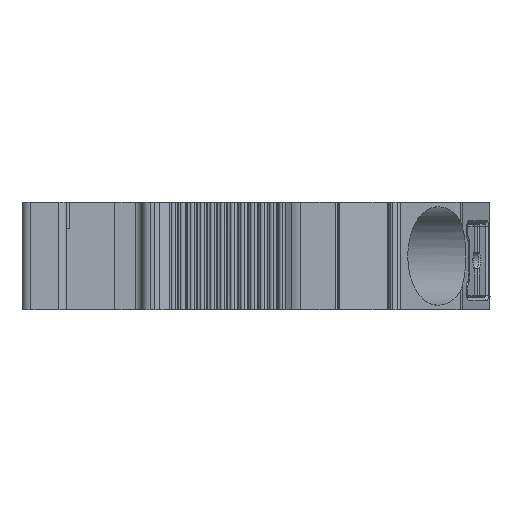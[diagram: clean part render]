
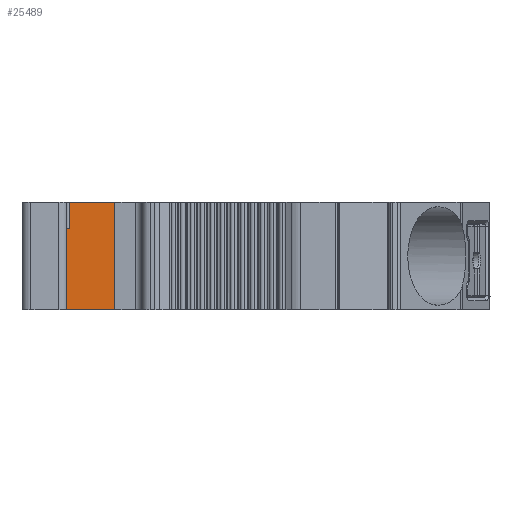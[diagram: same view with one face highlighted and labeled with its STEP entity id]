
A CAD part, left-side view. The second image highlights one B-rep face of the part: STEP entity #25489.
In plain terms, the highlighted planar face has unit normal (-1, 0, 0).
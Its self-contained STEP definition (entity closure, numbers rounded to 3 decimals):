
#7334=DIRECTION('',(0.,0.,-1.));
#7335=VECTOR('',#7334,3.);
#7336=CARTESIAN_POINT('',(3.75,48.368,
0.));
#7337=LINE('',#7336,#7335);
#7338=DIRECTION('',(0.,-1.,0.));
#7339=VECTOR('',#7338,1.975);
#7340=CARTESIAN_POINT('',(3.75,52.218,
0.));
#7341=LINE('',#7340,#7339);
#7342=DIRECTION('',(0.,-1.,0.));
#7343=VECTOR('',#7342,5.1);
#7344=CARTESIAN_POINT('',(3.75,48.368,
0.));
#7345=LINE('',#7344,#7343);
#7346=DIRECTION('',(0.,0.,-1.));
#7347=VECTOR('',#7346,12.15);
#7348=CARTESIAN_POINT('',(3.75,43.268,
0.));
#7349=LINE('',#7348,#7347);
#7350=DIRECTION('',(0.,1.,0.));
#7351=VECTOR('',#7350,6.625);
#7352=CARTESIAN_POINT('',(3.75,43.268,-12.15));
#7353=LINE('',#7352,#7351);
#7358=DIRECTION('',(0.,0.,1.));
#7359=VECTOR('',#7358,3.);
#7360=CARTESIAN_POINT('',(3.75,50.243,-3.));
#7361=LINE('',#7360,#7359);
#7375=DIRECTION('',(0.,1.,0.));
#7376=VECTOR('',#7375,1.875);
#7377=CARTESIAN_POINT('',(3.75,48.368,-3.));
#7378=LINE('',#7377,#7376);
#7400=DIRECTION('',(0.,0.,-1.));
#7401=VECTOR('',#7400,9.15);
#7402=CARTESIAN_POINT('',(3.75,52.218,
0.));
#7403=LINE('',#7402,#7401);
#7417=DIRECTION('',(0.,-1.,0.));
#7418=VECTOR('',#7417,2.325);
#7419=CARTESIAN_POINT('',(3.75,52.218,-9.15));
#7420=LINE('',#7419,#7418);
#7444=DIRECTION('',(0.,0.,-1.));
#7445=VECTOR('',#7444,3.);
#7446=CARTESIAN_POINT('',(3.75,49.893,-9.15));
#7447=LINE('',#7446,#7445);
#14034=CARTESIAN_POINT('',(3.75,49.893,
-12.15));
#14035=VERTEX_POINT('',#14034);
#14036=CARTESIAN_POINT('',(3.75,43.268,
-12.15));
#14037=VERTEX_POINT('',#14036);
#14791=CARTESIAN_POINT('',(3.75,43.268,
0.));
#14792=VERTEX_POINT('',#14791);
#14793=CARTESIAN_POINT('',(3.75,48.368,
0.));
#14794=VERTEX_POINT('',#14793);
#15025=CARTESIAN_POINT('',(3.75,50.243,
0.));
#15026=VERTEX_POINT('',#15025);
#15027=CARTESIAN_POINT('',(3.75,52.218,
0.));
#15028=VERTEX_POINT('',#15027);
#16057=CARTESIAN_POINT('',(3.75,48.368,
-3.));
#16058=VERTEX_POINT('',#16057);
#16059=CARTESIAN_POINT('',(3.75,50.243,
-3.));
#16060=VERTEX_POINT('',#16059);
#16061=CARTESIAN_POINT('',(3.75,49.893,
-9.15));
#16062=VERTEX_POINT('',#16061);
#16063=CARTESIAN_POINT('',(3.75,52.218,
-9.15));
#16064=VERTEX_POINT('',#16063);
#25466=CARTESIAN_POINT('',(3.75,43.015,
-12.483));
#25467=DIRECTION('',(1.,0.,0.));
#25468=DIRECTION('',(0.,-1.,0.));
#25469=AXIS2_PLACEMENT_3D('',#25466,#25467,#25468);
#25470=PLANE('',#25469);
#25471=ORIENTED_EDGE('',*,*,#18534,.T.);
#25473=ORIENTED_EDGE('',*,*,#25472,.F.);
#25475=ORIENTED_EDGE('',*,*,#25474,.F.);
#25476=ORIENTED_EDGE('',*,*,#25459,.F.);
#25477=ORIENTED_EDGE('',*,*,#18270,.T.);
#25479=ORIENTED_EDGE('',*,*,#25478,.T.);
#25480=ORIENTED_EDGE('',*,*,#19405,.T.);
#25482=ORIENTED_EDGE('',*,*,#25481,.F.);
#25484=ORIENTED_EDGE('',*,*,#25483,.F.);
#25486=ORIENTED_EDGE('',*,*,#25485,.F.);
#25487=EDGE_LOOP('',(#25471,#25473,#25475,#25476,#25477,#25479,#25480,#25482,
#25484,#25486));
#25488=FACE_OUTER_BOUND('',#25487,.F.);
#25489=ADVANCED_FACE('',(#25488),#25470,.F.);
#18270=EDGE_CURVE('',#14794,#14792,#7345,.T.);
#18534=EDGE_CURVE('',#15028,#15026,#7341,.T.);
#19405=EDGE_CURVE('',#14037,#14035,#7353,.T.);
#25459=EDGE_CURVE('',#14794,#16058,#7337,.T.);
#25472=EDGE_CURVE('',#16060,#15026,#7361,.T.);
#25474=EDGE_CURVE('',#16058,#16060,#7378,.T.);
#25478=EDGE_CURVE('',#14792,#14037,#7349,.T.);
#25481=EDGE_CURVE('',#16062,#14035,#7447,.T.);
#25483=EDGE_CURVE('',#16064,#16062,#7420,.T.);
#25485=EDGE_CURVE('',#15028,#16064,#7403,.T.);
